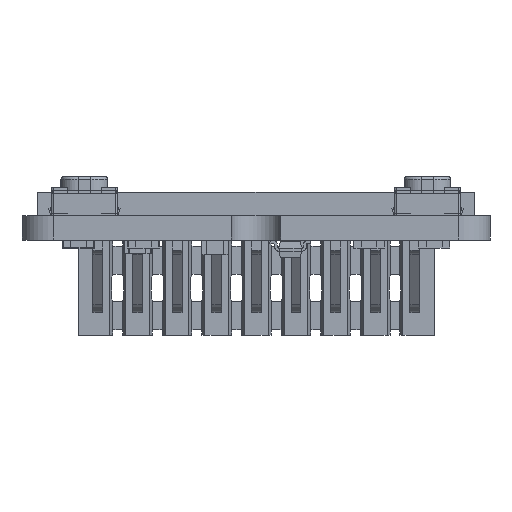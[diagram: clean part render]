
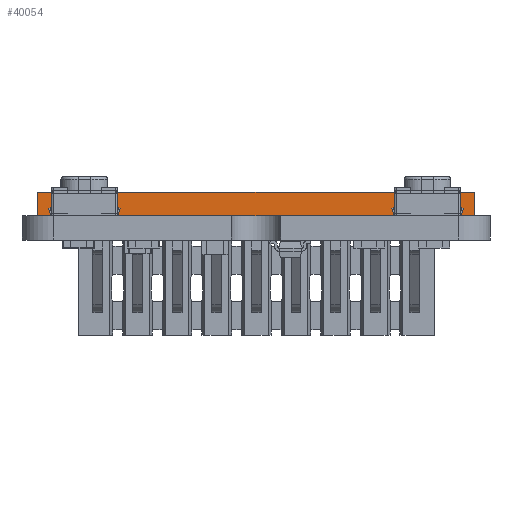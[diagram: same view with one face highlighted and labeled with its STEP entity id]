
A CAD part, left-side view. The second image highlights one B-rep face of the part: STEP entity #40054.
In plain terms, the highlighted planar face has unit normal (-1, 0, 0) as drawn and (0, 1, 0) by its records, which use the part's own axes.
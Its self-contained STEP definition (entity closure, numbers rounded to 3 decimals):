
#3887=PLANE('',#43504);
#5903=FACE_OUTER_BOUND('',#8204,.T.);
#8204=EDGE_LOOP('',(#37132,#37133,#37134,#37135));
#12505=LINE('',#64902,#16981);
#12524=LINE('',#64940,#17000);
#12525=LINE('',#64943,#17001);
#12526=LINE('',#64944,#17002);
#16981=VECTOR('',#53455,10.);
#17000=VECTOR('',#53488,10.);
#17001=VECTOR('',#53491,10.);
#17002=VECTOR('',#53492,10.);
#21439=VERTEX_POINT('',#64899);
#21440=VERTEX_POINT('',#64901);
#21452=VERTEX_POINT('',#64938);
#21453=VERTEX_POINT('',#64942);
#26697=EDGE_CURVE('',#21439,#21440,#12505,.T.);
#26716=EDGE_CURVE('',#21452,#21440,#12524,.T.);
#26717=EDGE_CURVE('',#21452,#21453,#12525,.T.);
#26718=EDGE_CURVE('',#21453,#21439,#12526,.T.);
#37132=ORIENTED_EDGE('',*,*,#26717,.F.);
#37133=ORIENTED_EDGE('',*,*,#26716,.T.);
#37134=ORIENTED_EDGE('',*,*,#26697,.F.);
#37135=ORIENTED_EDGE('',*,*,#26718,.F.);
#40054=ADVANCED_FACE('',(#5903),#3887,.T.);
#43504=AXIS2_PLACEMENT_3D('',#64941,#53489,#53490);
#53455=DIRECTION('',(-1.,0.,0.));
#53488=DIRECTION('',(0.,0.,1.));
#53489=DIRECTION('center_axis',(0.,1.,0.));
#53490=DIRECTION('ref_axis',(-1.,0.,0.));
#53491=DIRECTION('',(1.,0.,0.));
#53492=DIRECTION('',(0.,0.,1.));
#64899=CARTESIAN_POINT('',(28.,13.5,1.5));
#64901=CARTESIAN_POINT('',(0.,13.5,1.5));
#64902=CARTESIAN_POINT('',(0.,13.5,1.5));
#64938=CARTESIAN_POINT('',(0.,13.5,0.));
#64940=CARTESIAN_POINT('',(0.,13.5,0.));
#64941=CARTESIAN_POINT('Origin',(28.,13.5,0.));
#64942=CARTESIAN_POINT('',(28.,13.5,0.));
#64943=CARTESIAN_POINT('',(0.,13.5,0.));
#64944=CARTESIAN_POINT('',(28.,13.5,0.));
